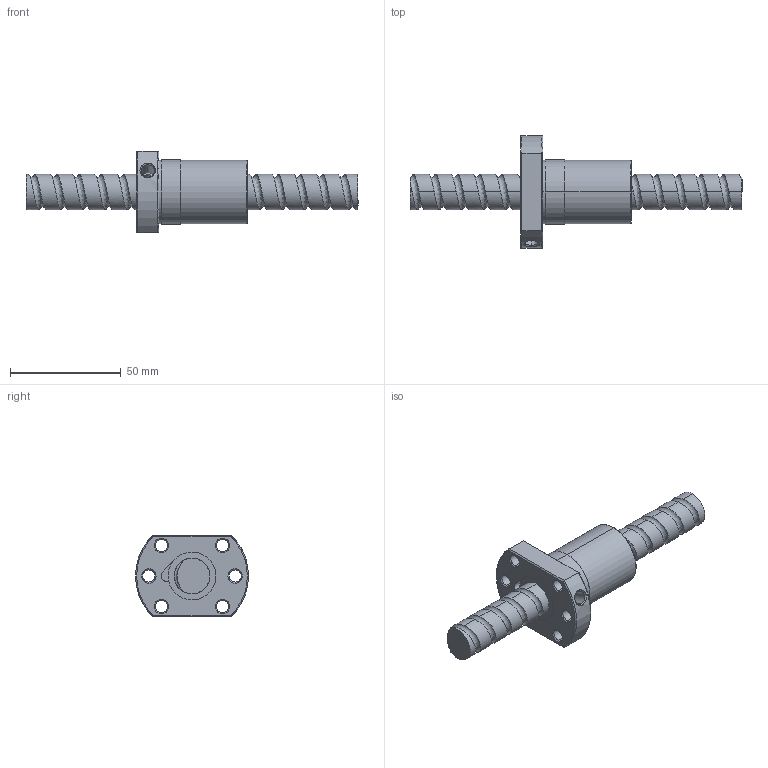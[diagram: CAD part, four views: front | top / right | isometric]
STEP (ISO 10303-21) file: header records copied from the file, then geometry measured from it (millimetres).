
FILE_DESCRIPTION (( 'STEP AP214' ), '1' );
FILE_NAME ('FSDC01610T3-B-C.STEP', '2010-06-25T11:23:59', ( 'XPAUTO' ), ( 'XPAUTO' ), 'SwSTEP 2.0', 'SolidWorks 2007', '' );
FILE_SCHEMA (( 'AUTOMOTIVE_DESIGN' ));
Products named in the file (3): FSDC01610T3-B-C.sldasm-Part-1_預設; FSDC01610T3-B-C.sldasm-Part-2_預設; FSDC01610T3-B-C
Assembly tree (2 placements, depth 2):
  FSDC01610T3-B-C
    FSDC01610T3-B-C.sldasm-Part-2_預設
    FSDC01610T3-B-C.sldasm-Part-1_預設
Bounding box: 150 x 51 x 37 mm (x, y, z)
Volume: 58870.9 mm3; surface area: 20454.8 mm2
Topology: 2 solids, 2 shells, 129 faces, 324 edges, 203 vertices
Faces by surface type: cylinder 71, cone 24, plane 22, bspline 6, torus 6
Entity records: 32306 total; most frequent: CARTESIAN_POINT 29218, ORIENTED_EDGE 648, DIRECTION 600, EDGE_CURVE 324, AXIS2_PLACEMENT_3D 243, VERTEX_POINT 203, EDGE_LOOP 149, FACE_OUTER_BOUND 129
